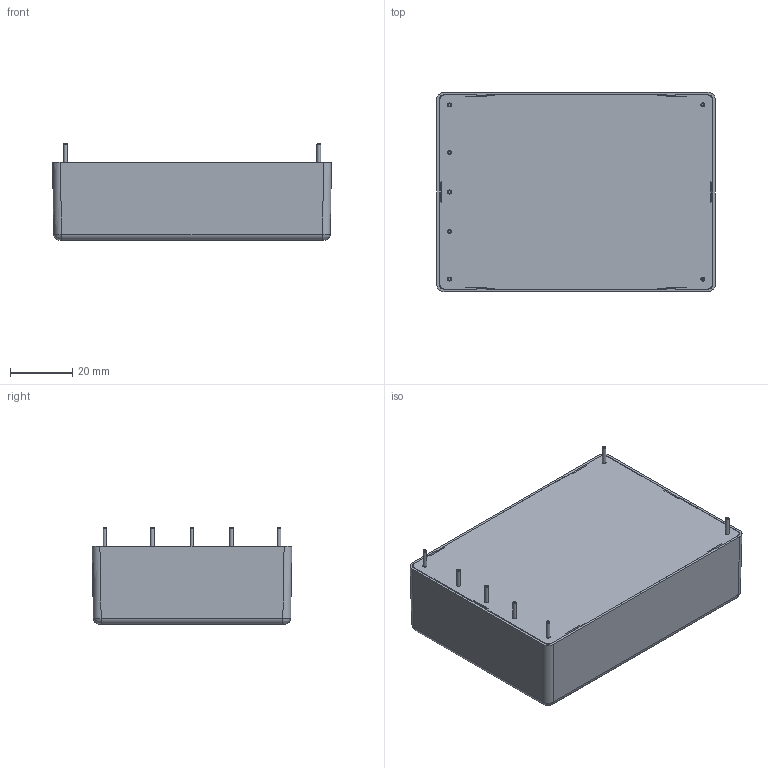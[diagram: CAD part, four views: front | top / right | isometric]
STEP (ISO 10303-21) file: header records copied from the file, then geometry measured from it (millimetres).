
FILE_DESCRIPTION(/* description */ (''),/* implementation_level */ '2;1');
FILE_NAME(/* name */ 'D:\Inventor\AJC\TML 405xx.stp',/* time_stamp */ '2019-10-16T14:18:38+08:00',/* author */ ('peter'),/* organization */ (''),/* preprocessor_version */ 'ST-DEVELOPER v15.2',/* originating_system */ 'Autodesk Inventor 2014',/* authorisation */ '');
FILE_SCHEMA (('CONFIG_CONTROL_DESIGN'));
Length unit declared in the file: millimetre
Products named in the file (4): TOP CASE-01; BOT CASE; PIN 1R2 x 25 mm; TML 405xx
Bounding box: 89.5 x 64.1 x 31 mm (x, y, z)
Volume: 23302.7 mm3; surface area: 37335.7 mm2
Topology: 9 solids, 9 shells, 208 faces, 468 edges, 295 vertices
Faces by surface type: plane 109, cylinder 56, torus 28, bspline 8, cone 7
Full cylindrical faces by diameter (mm): 1.2 x14, 1.3 x7, 1.7 x7
Entity records: 4522 total; most frequent: CARTESIAN_POINT 927, DIRECTION 734, ORIENTED_EDGE 690, EDGE_CURVE 345, LINE 250, VECTOR 250, AXIS2_PLACEMENT_3D 242, VERTEX_POINT 235
